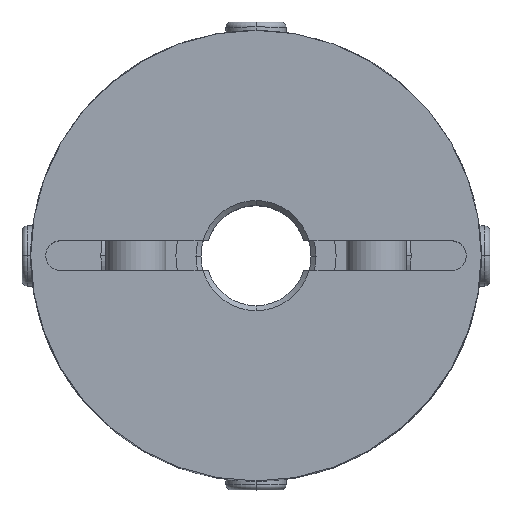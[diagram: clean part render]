
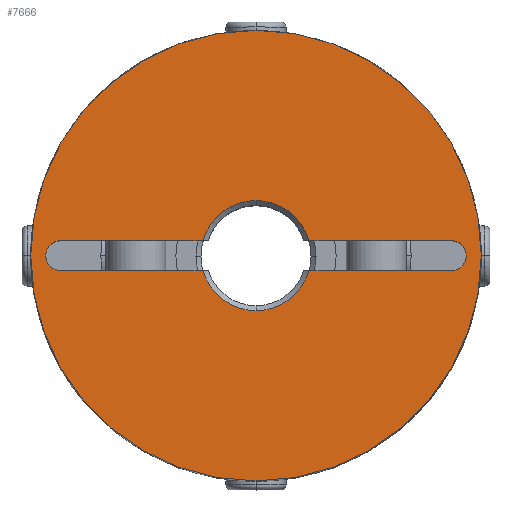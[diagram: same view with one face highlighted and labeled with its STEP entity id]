
A CAD part, top view. The second image highlights one B-rep face of the part: STEP entity #7666.
In plain terms, the highlighted planar face has unit normal (0, 0, 1).
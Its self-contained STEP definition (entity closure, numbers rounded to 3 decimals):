
#979=CARTESIAN_POINT('',(0.,22.5,22.5));
#980=VERTEX_POINT('',#979);
#987=CARTESIAN_POINT('',(0.,-22.5,22.5));
#988=VERTEX_POINT('',#987);
#989=CARTESIAN_POINT('',(0.0,0.0,22.5));
#990=DIRECTION('',(0.0,0.0,-1.0));
#991=DIRECTION('',(0.0,-1.0,0.0));
#992=AXIS2_PLACEMENT_3D('',#989,#990,#991);
#993=CIRCLE('',#992,22.5);
#994=EDGE_CURVE('',#980,#988,#993,.T.);
#1309=CARTESIAN_POINT('',(20.561,1.061,22.5));
#1310=VERTEX_POINT('',#1309);
#1326=CARTESIAN_POINT('',(19.5,-1.5,22.5));
#1327=VERTEX_POINT('',#1326);
#1334=CARTESIAN_POINT('',(19.5,0.,22.5));
#1335=DIRECTION('',(0.0,0.0,1.0));
#1336=DIRECTION('',(0.707,-0.707,0.0));
#1337=AXIS2_PLACEMENT_3D('',#1334,#1335,#1336);
#1338=CIRCLE('',#1337,1.5);
#1339=EDGE_CURVE('',#1327,#1310,#1338,.T.);
#1351=CARTESIAN_POINT('',(-20.561,-1.061,22.5));
#1352=VERTEX_POINT('',#1351);
#1368=CARTESIAN_POINT('',(-19.5,1.5,22.5));
#1369=VERTEX_POINT('',#1368);
#1376=CARTESIAN_POINT('',(-19.5,0.,22.5));
#1377=DIRECTION('',(0.0,0.0,1.0));
#1378=DIRECTION('',(-0.707,0.707,0.0));
#1379=AXIS2_PLACEMENT_3D('',#1376,#1377,#1378);
#1380=CIRCLE('',#1379,1.5);
#1381=EDGE_CURVE('',#1369,#1352,#1380,.T.);
#2105=CARTESIAN_POINT('',(0.,5.5,22.5));
#2106=VERTEX_POINT('',#2105);
#2114=CARTESIAN_POINT('',(5.292,1.5,22.5));
#2115=VERTEX_POINT('',#2114);
#2129=CARTESIAN_POINT('',(0.0,0.0,22.5));
#2130=DIRECTION('',(0.0,0.0,1.0));
#2131=DIRECTION('',(0.0,1.0,0.0));
#2132=AXIS2_PLACEMENT_3D('',#2129,#2130,#2131);
#2133=CIRCLE('',#2132,5.5);
#2134=EDGE_CURVE('',#2115,#2106,#2133,.T.);
#2144=CARTESIAN_POINT('',(0.,-5.5,22.5));
#2145=VERTEX_POINT('',#2144);
#2161=CARTESIAN_POINT('',(-5.292,-1.5,22.5));
#2162=VERTEX_POINT('',#2161);
#2176=CARTESIAN_POINT('',(0.0,0.0,22.5));
#2177=DIRECTION('',(0.0,0.0,1.0));
#2178=DIRECTION('',(0.0,-1.0,0.0));
#2179=AXIS2_PLACEMENT_3D('',#2176,#2177,#2178);
#2180=CIRCLE('',#2179,5.5);
#2181=EDGE_CURVE('',#2162,#2145,#2180,.T.);
#7404=CARTESIAN_POINT('',(19.5,1.5,22.5));
#7405=VERTEX_POINT('',#7404);
#7412=CARTESIAN_POINT('',(5.292,1.5,22.5));
#7413=DIRECTION('',(1.0,0.0,0.0));
#7414=VECTOR('',#7413,14.208);
#7415=LINE('',#7412,#7414);
#7416=EDGE_CURVE('',#2115,#7405,#7415,.T.);
#7551=CARTESIAN_POINT('',(5.292,-1.5,22.5));
#7552=VERTEX_POINT('',#7551);
#7566=CARTESIAN_POINT('',(19.5,-1.5,22.5));
#7567=DIRECTION('',(-1.0,0.0,0.0));
#7568=VECTOR('',#7567,14.208);
#7569=LINE('',#7566,#7568);
#7570=EDGE_CURVE('',#1327,#7552,#7569,.T.);
#7593=CARTESIAN_POINT('',(0.0,0.0,22.5));
#7594=DIRECTION('',(0.0,0.0,1.0));
#7595=DIRECTION('',(0.0,-1.0,0.0));
#7596=AXIS2_PLACEMENT_3D('',#7593,#7594,#7595);
#7597=CIRCLE('',#7596,5.5);
#7598=EDGE_CURVE('',#2145,#7552,#7597,.T.);
#7605=CARTESIAN_POINT('',(0.,-2.045,22.5));
#7606=DIRECTION('',(0.0,0.0,1.0));
#7607=DIRECTION('',(0.0,-1.0,0.0));
#7608=AXIS2_PLACEMENT_3D('',#7605,#7606,#7607);
#7609=PLANE('',#7608);
#7610=CARTESIAN_POINT('',(0.0,0.0,22.5));
#7611=DIRECTION('',(0.0,0.0,-1.0));
#7612=DIRECTION('',(0.0,-1.0,0.0));
#7613=AXIS2_PLACEMENT_3D('',#7610,#7611,#7612);
#7614=CIRCLE('',#7613,22.5);
#7615=EDGE_CURVE('',#988,#980,#7614,.T.);
#7616=ORIENTED_EDGE('',*,*,#7615,.F.);
#7617=ORIENTED_EDGE('',*,*,#994,.F.);
#7618=EDGE_LOOP('',(#7616,#7617));
#7619=FACE_OUTER_BOUND('',#7618,.T.);
#7620=ORIENTED_EDGE('',*,*,#2181,.F.);
#7621=CARTESIAN_POINT('',(-19.5,-1.5,22.5));
#7622=VERTEX_POINT('',#7621);
#7623=CARTESIAN_POINT('',(-5.292,-1.5,22.5));
#7624=DIRECTION('',(-1.0,0.0,0.0));
#7625=VECTOR('',#7624,14.208);
#7626=LINE('',#7623,#7625);
#7627=EDGE_CURVE('',#2162,#7622,#7626,.T.);
#7628=ORIENTED_EDGE('',*,*,#7627,.T.);
#7629=CARTESIAN_POINT('',(-19.5,0.,22.5));
#7630=DIRECTION('',(0.0,0.0,1.0));
#7631=DIRECTION('',(-0.707,0.707,0.0));
#7632=AXIS2_PLACEMENT_3D('',#7629,#7630,#7631);
#7633=CIRCLE('',#7632,1.5);
#7634=EDGE_CURVE('',#1352,#7622,#7633,.T.);
#7635=ORIENTED_EDGE('',*,*,#7634,.F.);
#7636=ORIENTED_EDGE('',*,*,#1381,.F.);
#7637=CARTESIAN_POINT('',(-5.292,1.5,22.5));
#7638=VERTEX_POINT('',#7637);
#7639=CARTESIAN_POINT('',(-19.5,1.5,22.5));
#7640=DIRECTION('',(1.0,0.0,0.0));
#7641=VECTOR('',#7640,14.208);
#7642=LINE('',#7639,#7641);
#7643=EDGE_CURVE('',#1369,#7638,#7642,.T.);
#7644=ORIENTED_EDGE('',*,*,#7643,.T.);
#7645=CARTESIAN_POINT('',(0.0,0.0,22.5));
#7646=DIRECTION('',(0.0,0.0,1.0));
#7647=DIRECTION('',(0.0,1.0,0.0));
#7648=AXIS2_PLACEMENT_3D('',#7645,#7646,#7647);
#7649=CIRCLE('',#7648,5.5);
#7650=EDGE_CURVE('',#2106,#7638,#7649,.T.);
#7651=ORIENTED_EDGE('',*,*,#7650,.F.);
#7652=ORIENTED_EDGE('',*,*,#2134,.F.);
#7653=ORIENTED_EDGE('',*,*,#7416,.T.);
#7654=CARTESIAN_POINT('',(19.5,0.,22.5));
#7655=DIRECTION('',(0.0,0.0,1.0));
#7656=DIRECTION('',(0.707,-0.707,0.0));
#7657=AXIS2_PLACEMENT_3D('',#7654,#7655,#7656);
#7658=CIRCLE('',#7657,1.5);
#7659=EDGE_CURVE('',#1310,#7405,#7658,.T.);
#7660=ORIENTED_EDGE('',*,*,#7659,.F.);
#7661=ORIENTED_EDGE('',*,*,#1339,.F.);
#7662=ORIENTED_EDGE('',*,*,#7570,.T.);
#7663=ORIENTED_EDGE('',*,*,#7598,.F.);
#7664=EDGE_LOOP('',(#7620,#7628,#7635,#7636,#7644,#7651,#7652,#7653,#7660,#7661,#7662,#7663));
#7665=FACE_BOUND('',#7664,.T.);
#7666=ADVANCED_FACE('',(#7619,#7665),#7609,.T.);
